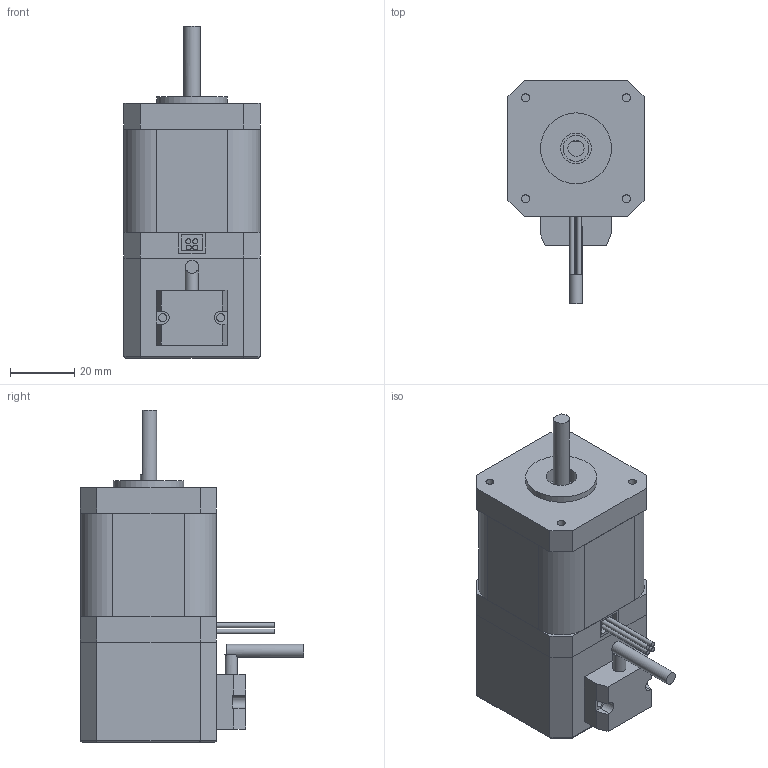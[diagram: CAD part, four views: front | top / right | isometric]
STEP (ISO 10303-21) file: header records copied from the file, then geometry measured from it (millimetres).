
FILE_DESCRIPTION(/* description */ (''),/* implementation_level */ '2;1');
FILE_NAME(/* name */ 'MP3-42HZ048.step',/* time_stamp */ '2022-05-24T10:36:11+08:00',/* author */ (''),/* organization */ (''),/* preprocessor_version */ 'ST-DEVELOPER v16',/* originating_system */ 'SIEMENS PLM Software NX 10.0',/* authorisation */ '');
FILE_SCHEMA (('AUTOMOTIVE_DESIGN { 1 0 10303 214 3 1 1 1 }'));
Length unit declared in the file: millimetre
Products named in the file (1): MP3-42HZ048
Bounding box: 42.2 x 69.2 x 103 mm (x, y, z)
Volume: 139584 mm3; surface area: 30554.1 mm2
Topology: 13 solids, 13 shells, 137 faces, 309 edges, 206 vertices
Faces by surface type: plane 94, cylinder 43
Full cylindrical faces by diameter (mm): 1.5 x4, 2.5 x10, 4 x2, 5 x2, 6 x4, 8 x2, 9.5 x2, 22 x2
Entity records: 3711 total; most frequent: CARTESIAN_POINT 624, DIRECTION 617, ORIENTED_EDGE 534, EDGE_CURVE 267, AXIS2_PLACEMENT_3D 216, EDGE_LOOP 198, VERTEX_POINT 193, LINE 185
